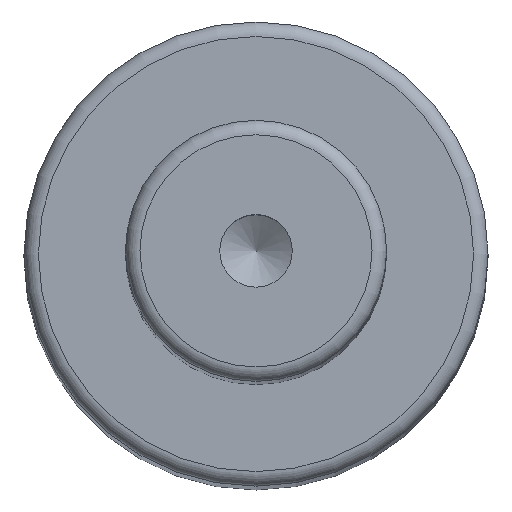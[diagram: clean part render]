
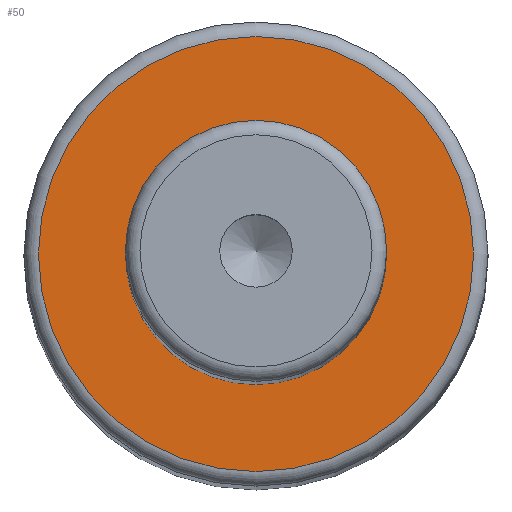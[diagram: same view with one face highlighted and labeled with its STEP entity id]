
A CAD part, top view. The second image highlights one B-rep face of the part: STEP entity #50.
In plain terms, the highlighted planar face has unit normal (0, 0, 1).
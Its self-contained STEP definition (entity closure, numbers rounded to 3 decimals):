
#40=PLANE('',#179);
#50=ADVANCED_FACE('',(#72,#73),#40,.F.);
#72=FACE_BOUND('',#96,.T.);
#73=FACE_BOUND('',#97,.T.);
#96=EDGE_LOOP('',(#118));
#97=EDGE_LOOP('',(#119));
#118=ORIENTED_EDGE('',*,*,#149,.F.);
#119=ORIENTED_EDGE('',*,*,#148,.T.);
#135=VERTEX_POINT('',#256);
#136=VERTEX_POINT('',#259);
#148=EDGE_CURVE('',#135,#135,#159,.T.);
#149=EDGE_CURVE('',#136,#136,#160,.T.);
#159=CIRCLE('',#176,9.);
#160=CIRCLE('',#178,15.);
#176=AXIS2_PLACEMENT_3D('',#255,#213,#214);
#178=AXIS2_PLACEMENT_3D('',#258,#217,#218);
#179=AXIS2_PLACEMENT_3D('',#260,#219,#220);
#213=DIRECTION('',(0.,0.,-1.));
#214=DIRECTION('',(-1.,0.,0.));
#217=DIRECTION('',(0.,0.,-1.));
#218=DIRECTION('',(-1.,0.,0.));
#219=DIRECTION('',(0.,0.,-1.));
#220=DIRECTION('',(-1.,0.,0.));
#255=CARTESIAN_POINT('',(0.,0.,154.));
#256=CARTESIAN_POINT('',(-9.,0.,154.));
#258=CARTESIAN_POINT('',(0.,0.,154.));
#259=CARTESIAN_POINT('',(-15.,0.,154.));
#260=CARTESIAN_POINT('',(9.,0.,154.));
